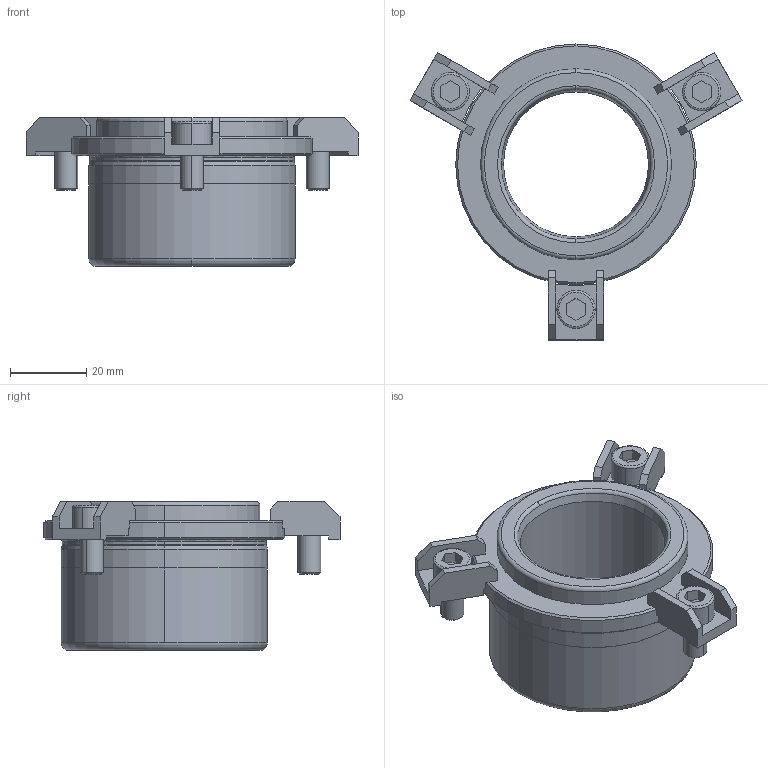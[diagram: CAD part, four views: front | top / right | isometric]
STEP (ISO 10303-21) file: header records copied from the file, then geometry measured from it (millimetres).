
FILE_DESCRIPTION((''),'2;1');
FILE_NAME('B42_030_029.stp','2008-11-04T14:29:19',(''),(''),'Mechanical Desktop 2009','Mechanical Desktop 2009',', , ');
FILE_SCHEMA(('CONFIG_CONTROL_DESIGN'));
Length unit declared in the file: millimetre
Products named in the file (2): Product; blmdl1
Assembly tree (1 placements, depth 2):
  Product
    blmdl1
Bounding box: 86.92 x 77.5 x 39 mm (x, y, z)
Volume: 51726.8 mm3; surface area: 19836.2 mm2
Topology: 7 solids, 7 shells, 185 faces, 474 edges, 312 vertices
Faces by surface type: plane 104, cylinder 39, cone 18, torus 14, bspline 10
Entity records: 6165 total; most frequent: CARTESIAN_POINT 1413, DIRECTION 1008, ORIENTED_EDGE 948, EDGE_CURVE 474, AXIS2_PLACEMENT_3D 357, VERTEX_POINT 312, VECTOR 294, LINE 294
